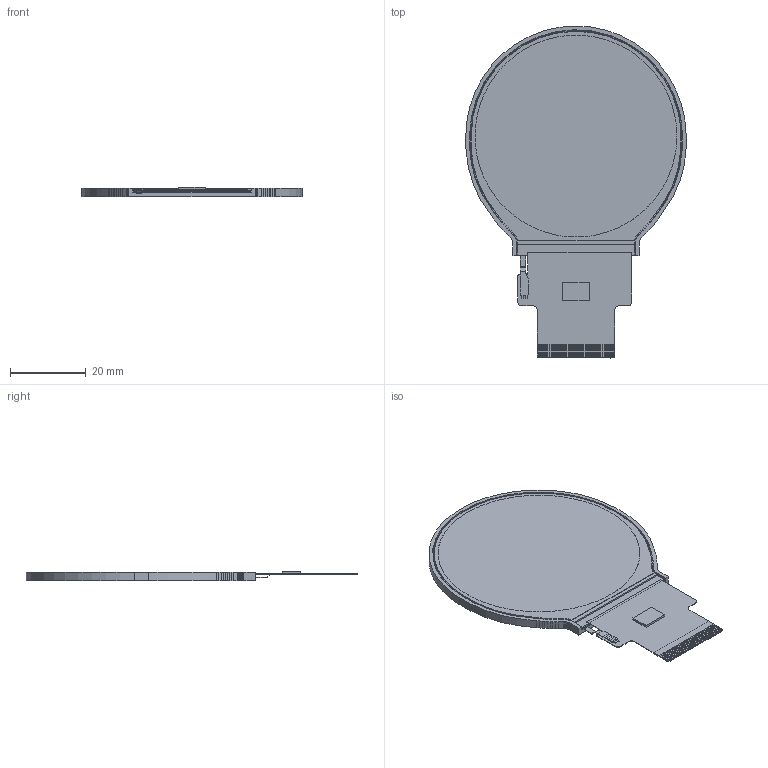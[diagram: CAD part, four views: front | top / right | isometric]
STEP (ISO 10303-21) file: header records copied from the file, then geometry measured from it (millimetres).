
FILE_DESCRIPTION (( 'STEP AP203' ), '1' );
FILE_NAME ('NHD-2.1-480480AF-ASXP_Rev2A-T021480480-A2WMN-001_E-20240816.STEP', '2024-08-16T16:13:42', ( '' ), ( '' ), 'SwSTEP 2.0', 'SolidWorks 2019', '' );
FILE_SCHEMA (( 'CONFIG_CONTROL_DESIGN' ));
Length unit declared in the file: millimetre
Products named in the file (2): NHD-2.1-480480AF-ASXP_Rev2A-T021480480-A2WMN-001_E-20240816
Bounding box: 58.18 x 87.71 x 2.47 mm (x, y, z)
Volume: 6519.3 mm3; surface area: 33394.1 mm2
Topology: 52 solids, 52 shells, 368 faces, 1179 edges, 915 vertices
Faces by surface type: plane 340, bspline 24, cylinder 4
Entity records: 46793 total; most frequent: CARTESIAN_POINT 36909, ORIENTED_EDGE 2358, DIRECTION 1450, EDGE_CURVE 1179, VERTEX_POINT 915, VECTOR 730, LINE 730, B_SPLINE_CURVE_WITH_KNOTS 425
